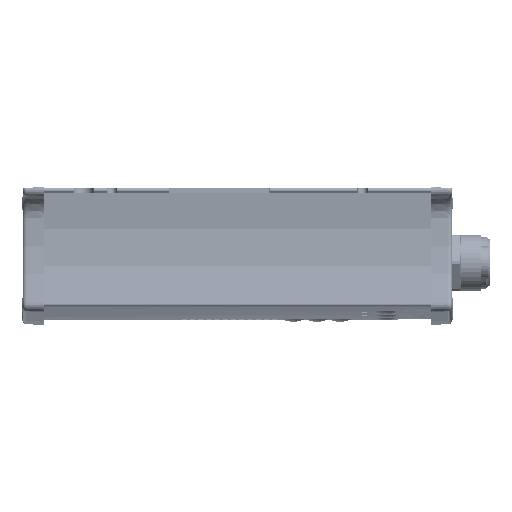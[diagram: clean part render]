
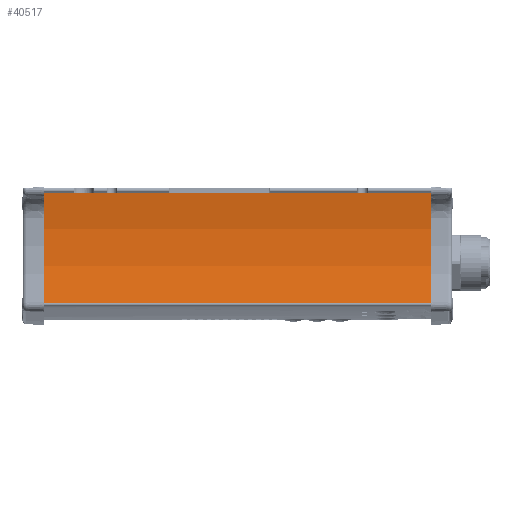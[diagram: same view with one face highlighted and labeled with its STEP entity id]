
A CAD part, left-side view. The second image highlights one B-rep face of the part: STEP entity #40517.
In plain terms, the highlighted cylindrical face has radius 109.9 mm (diameter 219.8 mm), a partial arc.
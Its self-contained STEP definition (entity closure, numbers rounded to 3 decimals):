
#1353 = DIRECTION ( 'NONE',  ( 0., 1., 0. ) ) ;
#9546 = EDGE_CURVE ( 'NONE', #91074, #11137, #121316, .T. ) ;
#11137 = VERTEX_POINT ( 'NONE', #52554 ) ;
#16354 = DIRECTION ( 'NONE',  ( 0., 1., 0. ) ) ;
#28206 = AXIS2_PLACEMENT_3D ( 'NONE', #167638, #16354, #63719 ) ;
#34258 = EDGE_CURVE ( 'NONE', #11137, #94306, #36101, .T. ) ;
#36101 = LINE ( 'NONE', #157181, #91228 ) ;
#40517 = ADVANCED_FACE ( 'NONE', ( #119333 ), #74880, .F. ) ;
#46965 = LINE ( 'NONE', #199217, #115155 ) ;
#51974 = DIRECTION ( 'NONE',  ( 0., 1., 0. ) ) ;
#52554 = CARTESIAN_POINT ( 'NONE',  ( -81.929, -175., -49.24 ) ) ;
#54911 = CARTESIAN_POINT ( 'NONE',  ( -81.929, -1., -49.24 ) ) ;
#58064 = ORIENTED_EDGE ( 'NONE', *, *, #122817, .T. ) ;
#63719 = DIRECTION ( 'NONE',  ( 0., 0., -1. ) ) ;
#74880 = CYLINDRICAL_SURFACE ( 'NONE', #28206, 109.9 ) ;
#76475 = CARTESIAN_POINT ( 'NONE',  ( -79.662, -1., -1.548 ) ) ;
#85475 = ORIENTED_EDGE ( 'NONE', *, *, #9546, .F. ) ;
#86235 = AXIS2_PLACEMENT_3D ( 'NONE', #125633, #51974, #110565 ) ;
#90334 = EDGE_CURVE ( 'NONE', #107525, #94306, #131699, .T. ) ;
#91074 = VERTEX_POINT ( 'NONE', #193058 ) ;
#91228 = VECTOR ( 'NONE', #141097, 1000. ) ;
#91328 = DIRECTION ( 'NONE',  ( 0., 1., 0. ) ) ;
#94306 = VERTEX_POINT ( 'NONE', #54911 ) ;
#96825 = ORIENTED_EDGE ( 'NONE', *, *, #34258, .F. ) ;
#107525 = VERTEX_POINT ( 'NONE', #76475 ) ;
#110565 = DIRECTION ( 'NONE',  ( 0., 0., 1. ) ) ;
#111411 = CARTESIAN_POINT ( 'NONE',  ( -187.95, -175., -20.3 ) ) ;
#115155 = VECTOR ( 'NONE', #91328, 1000. ) ;
#119333 = FACE_OUTER_BOUND ( 'NONE', #181502, .T. ) ;
#121316 = CIRCLE ( 'NONE', #172850, 109.9 ) ;
#122817 = EDGE_CURVE ( 'NONE', #91074, #107525, #46965, .T. ) ;
#124461 = DIRECTION ( 'NONE',  ( 0., 0., 1. ) ) ;
#125633 = CARTESIAN_POINT ( 'NONE',  ( -187.95, -1., -20.3 ) ) ;
#131699 = CIRCLE ( 'NONE', #86235, 109.9 ) ;
#141097 = DIRECTION ( 'NONE',  ( 0., 1., 0. ) ) ;
#145134 = ORIENTED_EDGE ( 'NONE', *, *, #90334, .T. ) ;
#157181 = CARTESIAN_POINT ( 'NONE',  ( -81.929, -175., -49.24 ) ) ;
#167638 = CARTESIAN_POINT ( 'NONE',  ( -187.95, -175., -20.3 ) ) ;
#172850 = AXIS2_PLACEMENT_3D ( 'NONE', #111411, #1353, #124461 ) ;
#181502 = EDGE_LOOP ( 'NONE', ( #145134, #96825, #85475, #58064 ) ) ;
#193058 = CARTESIAN_POINT ( 'NONE',  ( -79.662, -175., -1.548 ) ) ;
#199217 = CARTESIAN_POINT ( 'NONE',  ( -79.662, -175., -1.548 ) ) ;
